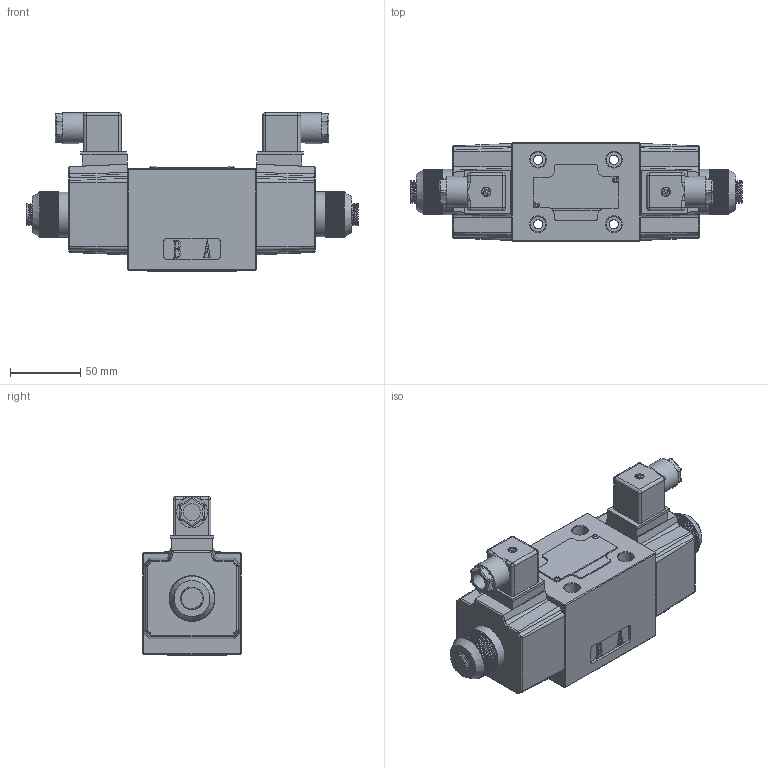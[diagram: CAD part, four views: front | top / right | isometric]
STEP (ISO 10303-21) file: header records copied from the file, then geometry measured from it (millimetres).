
FILE_DESCRIPTION(/* description */ (''),/* implementation_level */ '2;1');
FILE_NAME(/* name */ '4WE10-3XJ交流电磁阀（三位阀）.prt.stp',/* time_stamp */ '2022-03-30T19:33:39+08:00',/* author */ (''),/* organization */ (''),/* preprocessor_version */ 'ST-DEVELOPER v16.7',/* originating_system */ 'SIEMENS PLM Software NX 12.0',/* authorisation */ '');
FILE_SCHEMA (('AUTOMOTIVE_DESIGN { 1 0 10303 214 3 1 1 1 }'));
Products named in the file (1): 4WE10-3XJ交流电磁阀（三位阀）
Bounding box: 236.4 x 70 x 113 mm (x, y, z)
Volume: 591688.6 mm3; surface area: 152800.6 mm2
Topology: 21 solids, 31 shells, 1452 faces, 3830 edges, 2476 vertices
Faces by surface type: plane 760, cylinder 514, cone 58, bspline 51, torus 44, sphere 20, extrusion 5
Full cylindrical faces by diameter (mm): 1.8 x4, 1.9 x2, 2.55 x38, 3 x78, 3.5 x4, 3.6 x6, 6 x2, 6.5 x2, 6.6 x4, 7 x2, 8 x2, 11 x4, 12 x2, 12.085 x2, 15.7 x5, 16.5 x2, 17 x2, 21.4 x2, 22 x4, 26 x4, 27 x2, 31.4 x2, 32.5 x2
Entity records: 87026 total; most frequent: CARTESIAN_POINT 52335, DIRECTION 6665, ORIENTED_EDGE 6632, EDGE_CURVE 3316, AXIS2_PLACEMENT_3D 2401, VERTEX_POINT 2221, VECTOR 1863, LINE 1858
